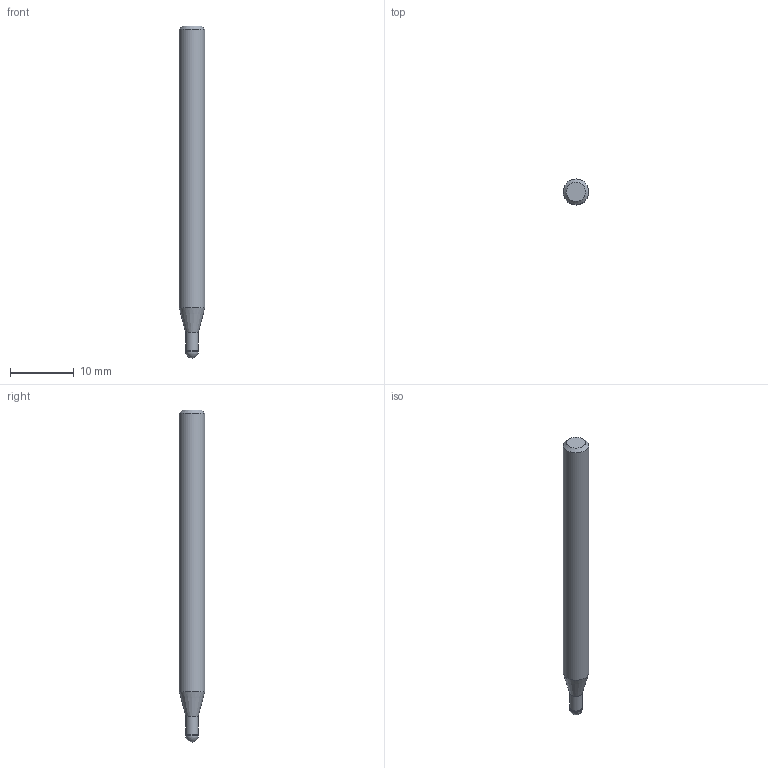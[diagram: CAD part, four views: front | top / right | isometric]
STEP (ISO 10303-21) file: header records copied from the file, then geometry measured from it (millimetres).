
FILE_DESCRIPTION((''),'2;1');
FILE_NAME('C:\Users\nsx150\AppData\Local\Temp\Mastercam 2021\LJSIDMOTM8\TEMP.step','2021-08-03T14:23:11',(''),(''),'STEP Write','Mastercam 2021 ... CNC Software, Inc.','');
FILE_SCHEMA(('AUTOMOTIVE_DESIGN'));
Length unit declared in the file: millimetre
Products named in the file (1): None
Bounding box: 4 x 4 x 52 mm (x, y, z)
Volume: 592.1 mm3; surface area: 631.3 mm2
Topology: 2 solids, 2 shells, 9 faces, 14 edges, 8 vertices
Faces by surface type: plane 3, cylinder 3, cone 2, sphere 1
Full cylindrical faces by diameter (mm): 1.94 x1, 2 x1, 4 x1
Entity records: 211 total; most frequent: DIRECTION 36, CARTESIAN_POINT 25, AXIS2_PLACEMENT_3D 18, ORIENTED_EDGE 14, EDGE_LOOP 14, STYLED_ITEM 12, ADVANCED_FACE 9, FACE_BOUND 8
